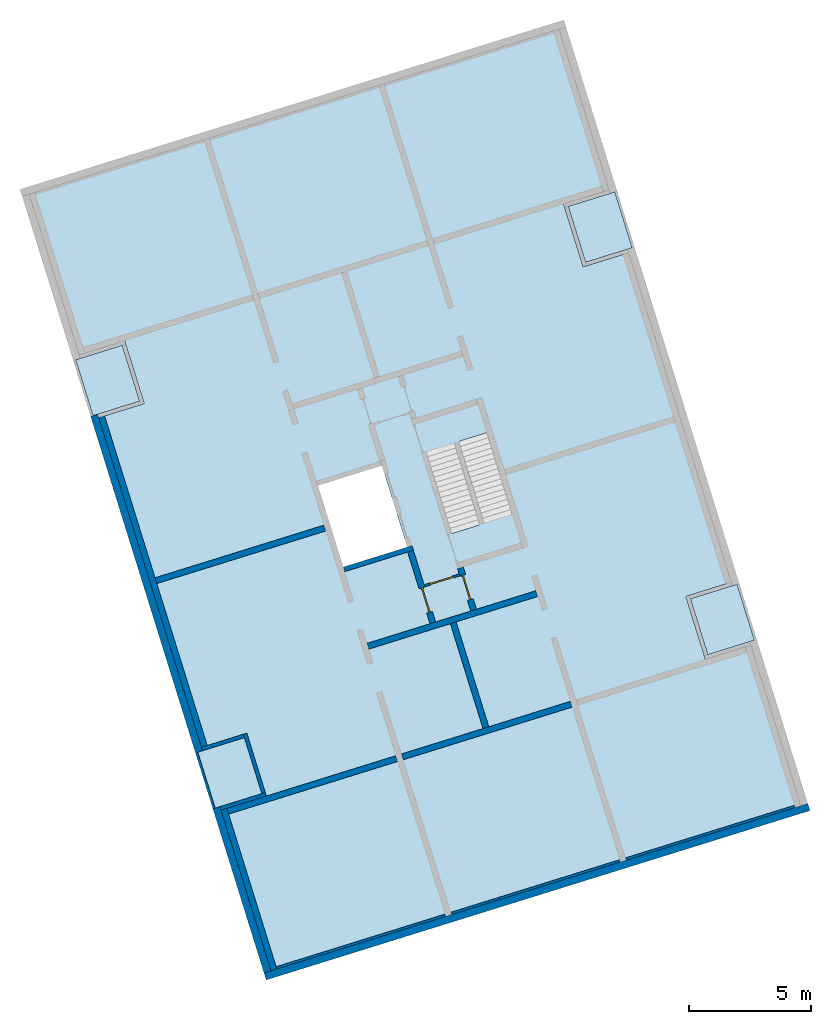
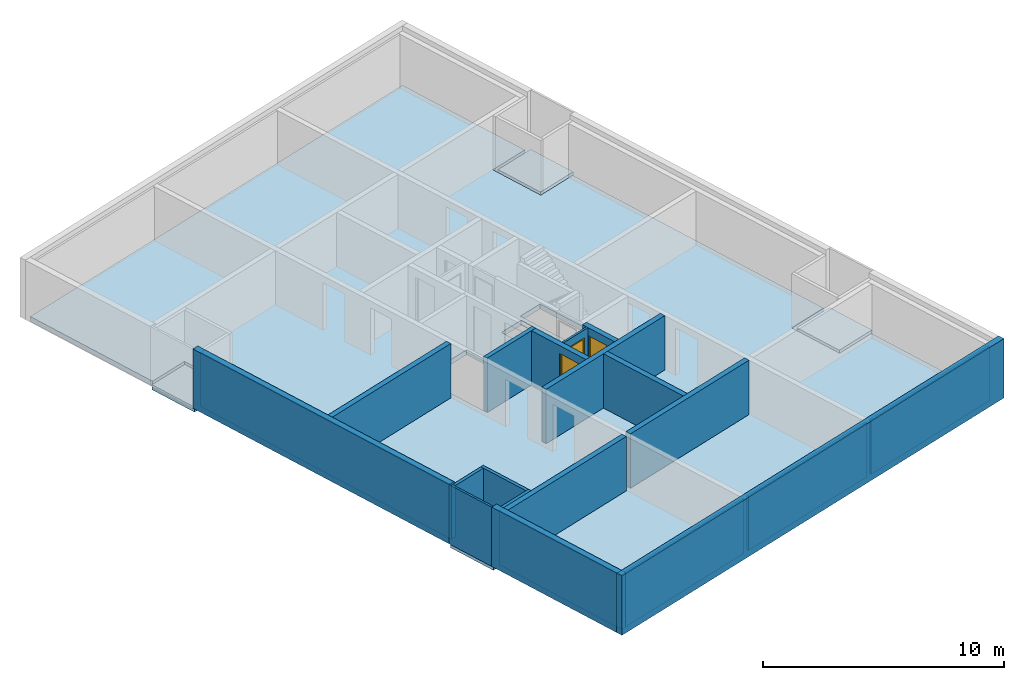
# One storey, part 1 of 4: 21 walls, 5 slabs, 3 doors, 5 openings.
"""IFC4 building model written with IfcOpenShell, lengths in metres."""

from ifc_helpers import new_model, entity, si_unit, converted_unit, direction, frame, origin, place, context, subcontext, project, spatial, indexed_curve, outline, extrude, polygons, source, transform, mapped, material, constituent, constituent_set, type_object, type_shapes, element, fill, save


model = new_model("IFC4")

# Units and contexts
model_context = context("Model", 3, precision=1e-05, world=origin(), true_north=direction((6.12323399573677e-17, 1.0)))
body_context = subcontext(model_context, "Body", "Model", "MODEL_VIEW")
ifc_project = project(units=[si_unit("LENGTHUNIT", "METRE"), si_unit("AREAUNIT", "SQUARE_METRE"), si_unit("VOLUMEUNIT", "CUBIC_METRE"), converted_unit("PLANEANGLEUNIT", "DEGREE", entity("IfcPlaneAngleMeasure", 0.0174532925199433), si_unit("PLANEANGLEUNIT", "RADIAN"), dimensions=[0, 0, 0, 0, 0, 0, 0])], contexts=[model_context])

# Site, building, storey
site_placement = place(None, frame((13.1347999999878, 11.9886000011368, 0.0), z_axis=(0.0, 0.0, 1.0), x_axis=(0.954770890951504, 0.297342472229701, 0.0)))
site = spatial("IfcSite", under=ifc_project, at=site_placement, Name="Schiehaven", CompositionType="ELEMENT")
building_placement = place(site_placement, origin())
building = spatial("IfcBuilding", under=site, at=building_placement, Name="VORM huis", CompositionType="ELEMENT")
storey_placement = place(building_placement, frame((0.0, 0.0, 3.9)))
storey = spatial("IfcBuildingStorey", under=building, at=storey_placement, Name="01 eerste verdieping", CompositionType="ELEMENT", Elevation=3.9)

# Slab, openings
ifc_material_1 = material(Name="beton_gewapend_ihw", Category="Miscellaneous")
slab_type_1 = type_object("IfcSlabType", Name="Floor:28_FL_skelet_vloer 250mm", PredefinedType="FLOOR", material=ifc_material_1)
slab_1_placement = place(storey_placement, origin())
slab_1 = element("IfcSlab", 1, at=slab_1_placement, inside=storey, type_object=slab_type_1, material=ifc_material_1, Name="Constructieve vloer", ObjectType="Vloer", PredefinedType="FLOOR", context=body_context, shape_type="SweptSolid", body=[
    extrude(outline(indexed_curve([(-16.6749999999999, -11.375), (-9.77499999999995, -11.375), (-9.77499999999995, -9.42500000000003), (-7.07499999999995, -9.42500000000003), (-7.07499999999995, -11.375), (7.07499999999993, -11.375), (7.07499999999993, -9.42500000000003), (9.77499999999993, -9.42500000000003), (9.77499999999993, -11.375), (16.675, -11.375), (16.675, 11.375), (9.77499999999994, 11.375), (9.77499999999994, 9.42500000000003), (7.07499999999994, 9.42500000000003), (7.07499999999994, 11.375), (-7.07499999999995, 11.375), (-7.07499999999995, 9.42500000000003), (-9.77499999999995, 9.42500000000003), (-9.77499999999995, 11.375), (-16.6749999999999, 11.375), (-16.6749999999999, -11.375)], self_intersect=False), holes=[indexed_curve([(-1.75, -3.62500000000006), (-1.75, -0.875000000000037), (1.75, -0.875000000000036), (1.75, -3.62500000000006), (-1.75, -3.62500000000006)], self_intersect=False), indexed_curve([(1.76000000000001, 2.22499999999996), (1.76000000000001, 1.02499999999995), (-1.53999999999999, 1.02499999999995), (-1.53999999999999, 2.22499999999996), (1.76000000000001, 2.22499999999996)], self_intersect=False), indexed_curve([(-1.75999999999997, 3.62499999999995), (1.54000000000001, 3.62499999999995), (1.54000000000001, 2.42499999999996), (-1.75999999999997, 2.42499999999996), (-1.75999999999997, 3.62499999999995)], self_intersect=False)]), frame((16.2500000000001, 17.05, -0.249999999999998), z_axis=(0.0, 0.0, 1.0), x_axis=(0.0, -1.0, 0.0)), (0.0, 0.0, 1.0), 0.25),
])
opening_1_placement = place(slab_1_placement, origin())
element("IfcOpeningElement", 2, at=opening_1_placement, cuts=slab_1, Name="Constructieve vloer", PredefinedType="OPENING", context=body_context, shape_type="SweptSolid", body=[
    extrude(outline(indexed_curve([(-1.74999999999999, -1.37500000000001), (1.75, -1.37500000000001), (1.75, 1.37500000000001), (-1.75, 1.37500000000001), (-1.74999999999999, -1.37500000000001)], self_intersect=False)), frame((14.0, 17.05, -0.25), z_axis=(0.0, 0.0, 1.0), x_axis=(0.0, -1.0, 0.0)), (0.0, 0.0, 1.0), 0.25),
])
opening_2_placement = place(slab_1_placement, origin())
element("IfcOpeningElement", 3, at=opening_2_placement, cuts=slab_1, Name="Constructieve vloer", PredefinedType="OPENING", context=body_context, shape_type="SweptSolid", body=[
    extrude(outline(indexed_curve([(-1.65, -0.600000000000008), (1.65, -0.600000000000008), (1.65, 0.600000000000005), (-1.65, 0.600000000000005), (-1.65, -0.600000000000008)], self_intersect=False)), frame((17.8750000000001, 16.94, -0.25), z_axis=(0.0, 0.0, 1.0), x_axis=(0.0, 1.0, 0.0)), (0.0, 0.0, 1.0), 0.25),
])

# Slabs
slab_type_2 = type_object("IfcSlabType", Name="Floor:28_FL_skelet_dakterrasvloer 250mm", PredefinedType="ROOF", material=ifc_material_1)
slab_2_placement = place(storey_placement, origin())
element("IfcSlab", 4, at=slab_2_placement, inside=storey, type_object=slab_type_2, material=ifc_material_1, Name="Begaanbare dakvloer", ObjectType="Vloer", PredefinedType="ROOF", context=body_context, shape_type="SweptSolid", body=[
    extrude(outline(indexed_curve([(-1.2, -1.0), (1.2, -1.0), (1.2, 1.0), (-1.2, 1.0), (-1.2, -1.0)], self_intersect=False)), frame((5.67500000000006, 8.62500000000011, 0.0), z_axis=(0.0, 0.0, -1.0), x_axis=(0.0, 1.0, 0.0)), (0.0, 0.0, 1.0), 0.25),
])
slab_3_placement = place(storey_placement, origin())
element("IfcSlab", 5, at=slab_3_placement, inside=storey, type_object=slab_type_2, material=ifc_material_1, Name="Begaanbare dakvloer", ObjectType="Vloer", PredefinedType="ROOF", context=body_context, shape_type="SweptSolid", body=[
    extrude(outline(indexed_curve([(-1.2, -1.0), (1.2, -1.0), (1.2, 1.0), (-1.2, 1.0), (-1.2, -1.0)], self_intersect=False)), frame((5.67500000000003, 25.475, 0.0), z_axis=(0.0, 0.0, -1.0), x_axis=(0.0, 1.0, 0.0)), (0.0, 0.0, 1.0), 0.25),
])
slab_4_placement = place(storey_placement, origin())
element("IfcSlab", 6, at=slab_4_placement, inside=storey, type_object=slab_type_2, material=ifc_material_1, Name="Begaanbare dakvloer", ObjectType="Vloer", PredefinedType="ROOF", context=body_context, shape_type="SweptSolid", body=[
    extrude(outline(indexed_curve([(-1.2, -1.0), (1.19999999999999, -1.0), (1.2, 1.0), (-1.2, 1.0), (-1.2, -1.0)], self_intersect=False)), frame((26.8250000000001, 25.4749999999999, 0.0), z_axis=(0.0, 0.0, -1.0), x_axis=(0.0, 1.0, 0.0)), (0.0, 0.0, 1.0), 0.25),
])
slab_5_placement = place(storey_placement, origin())
element("IfcSlab", 7, at=slab_5_placement, inside=storey, type_object=slab_type_2, material=ifc_material_1, Name="Begaanbare dakvloer", ObjectType="Vloer", PredefinedType="ROOF", context=body_context, shape_type="SweptSolid", body=[
    extrude(outline(indexed_curve([(-1.2, -1.00000000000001), (1.2, -1.00000000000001), (1.2, 0.999999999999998), (-1.2, 1.0), (-1.2, -1.00000000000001)], self_intersect=False)), frame((26.8250000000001, 8.6250000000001, 0.0), z_axis=(0.0, 0.0, -1.0), x_axis=(0.0, 1.0, 0.0)), (0.0, 0.0, 1.0), 0.25),
])

# Walls
wall_type_1 = type_object("IfcWallType", Name="Basic Wall:28_WA_skelet_wand 250mm_gen", PredefinedType="STANDARD")
wall_1_placement = place(storey_placement, frame((5.0, 0.374999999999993, 0.0), z_axis=(0.0, 0.0, 1.0), x_axis=(0.0, 1.0, 0.0)))
element("IfcWall", 8, at=wall_1_placement, inside=storey, type_object=wall_type_1, material=ifc_material_1, Name="Constructieve wand", ObjectType="Wand", PredefinedType="NOTDEFINED", context=body_context, shape_type="SweptSolid", body=[
    extrude(outline(indexed_curve([(6.90000000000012, 0.125), (4.15883752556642e-16, 0.125), (-4.15883752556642e-16, -0.125), (6.90000000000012, -0.125), (6.90000000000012, 0.125)], self_intersect=False)), origin(), (0.0, 0.0, 1.0), 2.75),
])
wall_2_placement = place(storey_placement, frame((19.875, 11.9, 0.0), z_axis=(0.0, 0.0, 1.0), x_axis=(-1.0, 0.0, 0.0)))
element("IfcWall", 9, at=wall_2_placement, inside=storey, type_object=wall_type_1, material=ifc_material_1, Name="Constructieve wand", ObjectType="Wand", PredefinedType="NOTDEFINED", context=body_context, shape_type="SweptSolid", body=[
    extrude(outline(indexed_curve([(7.24999999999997, 0.125), (-8.26393618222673e-17, 0.125), (8.26393618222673e-17, -0.125), (7.24999999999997, -0.124999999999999), (7.24999999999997, 0.125)], self_intersect=False)), origin(), (0.0, 0.0, 1.0), 2.75),
])
wall_3_placement = place(storey_placement, frame((5.0, 9.97500000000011, 0.0), z_axis=(0.0, 0.0, 1.0), x_axis=(0.0, 1.0, 0.0)))
element("IfcWall", 10, at=wall_3_placement, inside=storey, type_object=wall_type_1, material=ifc_material_1, Name="Constructieve wand", ObjectType="Wand", PredefinedType="NOTDEFINED", context=body_context, shape_type="SweptSolid", body=[
    extrude(outline(indexed_curve([(14.1499999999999, 0.125), (-6.50485554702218e-16, 0.125), (-1.51524870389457e-15, -0.125), (14.1499999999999, -0.125), (14.1499999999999, 0.125)], self_intersect=False)), origin(), (0.0, 0.0, 1.0), 2.75),
])
ifc_material_2 = material(Name="ntb_ntb_ntb", Category="Miscellaneous")
wall_type_2 = type_object("IfcWallType", Name="Basic Wall:21_WA_gevel_binnenspouwwand 100mm_gen", PredefinedType="STANDARD")
wall_4_placement = place(storey_placement, frame((5.12500000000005, 0.424999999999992, 0.0)))
element("IfcWall", 11, at=wall_4_placement, inside=storey, type_object=wall_type_2, material=ifc_material_2, Name="Binnenspouwblad", ObjectType="Wand", PredefinedType="NOTDEFINED", context=body_context, shape_type="SweptSolid", body=[
    extrude(outline(indexed_curve([(7.24999999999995, 0.05), (-1.84844170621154e-16, 0.05), (1.84844170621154e-16, -0.05), (7.24999999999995, -0.05), (7.24999999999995, 0.05)], self_intersect=False)), origin(), (0.0, 0.0, 1.0), 2.75),
])
wall_5_placement = place(storey_placement, frame((19.875, 0.424999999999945, 0.0), z_axis=(0.0, 0.0, 1.0), x_axis=(-1.0, 0.0, 0.0)))
element("IfcWall", 12, at=wall_5_placement, inside=storey, type_object=wall_type_2, material=ifc_material_2, Name="Binnenspouwblad", ObjectType="Wand", PredefinedType="NOTDEFINED", context=body_context, shape_type="SweptSolid", body=[
    extrude(outline(indexed_curve([(7.24999999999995, 0.05), (-3.39037421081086e-16, 0.05), (3.39037421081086e-16, -0.05), (7.24999999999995, -0.05), (7.24999999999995, 0.05)], self_intersect=False)), origin(), (0.0, 0.0, 1.0), 2.75),
])
wall_6_placement = place(storey_placement, frame((20.1250000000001, 0.424999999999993, 0.0)))
element("IfcWall", 13, at=wall_6_placement, inside=storey, type_object=wall_type_2, material=ifc_material_2, Name="Binnenspouwblad", ObjectType="Wand", PredefinedType="NOTDEFINED", context=body_context, shape_type="SweptSolid", body=[
    extrude(outline(indexed_curve([(7.24999999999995, 0.05), (-1.84844170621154e-16, 0.05), (1.84844170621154e-16, -0.05), (7.24999999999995, -0.05), (7.24999999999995, 0.05)], self_intersect=False)), origin(), (0.0, 0.0, 1.0), 2.75),
])
wall_type_3 = type_object("IfcWallType", Name="Basic Wall: 300mm_gen", PredefinedType="STANDARD")
wall_7_placement = place(storey_placement, frame((4.72500000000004, 0.375000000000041, 0.0), z_axis=(0.0, 0.0, 1.0), x_axis=(0.0, 1.0, 0.0)))
element("IfcWall", 14, at=wall_7_placement, inside=storey, type_object=wall_type_3, material=ifc_material_2, Name="Gevelwand", ObjectType="Wand", PredefinedType="NOTDEFINED", context=body_context, shape_type="SweptSolid", body=[
    extrude(outline(indexed_curve([(7.05000000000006, 0.15), (2.25597318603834e-16, 0.15), (-2.25597318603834e-16, -0.15), (7.05000000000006, -0.15), (7.05000000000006, 0.15)], self_intersect=False)), origin(), (0.0, 0.0, 1.0), 3.0),
])
wall_8_placement = place(storey_placement, frame((27.9250000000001, 0.224999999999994, 0.0), z_axis=(0.0, 0.0, 1.0), x_axis=(-1.0, 0.0, 0.0)))
element("IfcWall", 15, at=wall_8_placement, inside=storey, type_object=wall_type_3, material=ifc_material_2, Name="Gevelwand", ObjectType="Wand", PredefinedType="NOTDEFINED", context=body_context, shape_type="SweptSolid", body=[
    extrude(outline(indexed_curve([(23.3500000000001, 0.15), (-3.08086889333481e-16, 0.15), (3.08086889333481e-16, -0.15), (23.3500000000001, -0.15), (23.3500000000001, 0.15)], self_intersect=False)), origin(), (0.0, 0.0, 1.0), 3.0),
])
wall_9_placement = place(storey_placement, frame((4.72500000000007, 9.82500000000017, 0.0), z_axis=(0.0, 0.0, 1.0), x_axis=(0.0, 1.0, 0.0)))
element("IfcWall", 16, at=wall_9_placement, inside=storey, type_object=wall_type_3, material=ifc_material_2, Name="Gevelwand", ObjectType="Wand", PredefinedType="NOTDEFINED", context=body_context, shape_type="SweptSolid", body=[
    extrude(outline(indexed_curve([(14.4499999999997, 0.15), (-2.92261716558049e-16, 0.15), (2.92261716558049e-16, -0.15), (14.4499999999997, -0.15), (14.4499999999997, 0.15)], self_intersect=False)), origin(), (0.0, 0.0, 1.0), 3.0),
])
ifc_material_3 = material(Name="beton_gewapend_prefab-element", Category="Miscellaneous")
wall_type_4 = type_object("IfcWallType", Name="Basic Wall:28_WA_skelet_wand 200mm_gen", PredefinedType="STANDARD")
wall_10_placement = place(storey_placement, frame((12.6250000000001, 15.2, 0.0)))
element("IfcWall", 17, at=wall_10_placement, inside=storey, type_object=wall_type_4, material=ifc_material_3, Name="Constructieve wand", ObjectType="Wand", PredefinedType="NOTDEFINED", context=body_context, shape_type="SweptSolid", body=[
    extrude(outline(indexed_curve([(2.95, 0.100000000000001), (-3.51397851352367e-16, 0.100000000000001), (3.51397851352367e-16, -0.100000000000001), (2.95, -0.100000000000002), (2.95, 0.100000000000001)], self_intersect=False)), origin(), (0.0, 0.0, 1.0), 2.75),
])
wall_type_5 = type_object("IfcWallType", Name="Basic Wall:22_WA_afbouw_binnenwand 250mm_gen", PredefinedType="STANDARD")
wall_11_placement = place(storey_placement, frame((12.3750000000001, 17.05, 0.0), z_axis=(0.0, 0.0, 1.0), x_axis=(-1.0, 0.0, 0.0)))
element("IfcWall", 18, at=wall_11_placement, inside=storey, type_object=wall_type_5, material=ifc_material_2, Name="Binnenwand", ObjectType="Wand", PredefinedType="NOTDEFINED", context=body_context, shape_type="SweptSolid", body=[
    extrude(outline(indexed_curve([(7.24999999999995, 0.125), (-4.96496521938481e-16, 0.125), (4.96496521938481e-16, -0.125), (7.24999999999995, -0.124999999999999), (7.24999999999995, 0.125)], self_intersect=False)), origin(), (0.0, 0.0, 1.0), 2.75),
])
wall_12_placement = place(storey_placement, frame((16.2500000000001, 11.7750000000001, 0.0), z_axis=(0.0, 0.0, 1.0), x_axis=(0.0, -1.0, 0.0)))
element("IfcWall", 19, at=wall_12_placement, inside=storey, type_object=wall_type_5, material=ifc_material_2, Name="Binnenwand", ObjectType="Wand", PredefinedType="NOTDEFINED", context=body_context, shape_type="SweptSolid", body=[
    extrude(outline(indexed_curve([(4.49999999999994, 0.124999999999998), (-4.42822187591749e-16, 0.125), (4.42822187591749e-16, -0.125), (4.49999999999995, -0.125000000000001), (4.49999999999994, 0.124999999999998)], self_intersect=False)), origin(), (0.0, 0.0, 1.0), 2.75),
])

# Wall, opening, door
wall_13_placement = place(storey_placement, frame((17.2000000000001, 13.84, 0.0), z_axis=(0.0, 0.0, 1.0), x_axis=(0.0, -1.0, 0.0)))
wall_13 = element("IfcWall", 20, at=wall_13_placement, inside=storey, type_object=wall_type_5, material=ifc_material_2, Name="Binnenwand", ObjectType="Wand", PredefinedType="NOTDEFINED", context=body_context, shape_type="Tessellation", body=[
    polygons([(1.36500000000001, -0.124999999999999, 2.34999999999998), (1.36500000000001, -0.124999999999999, -5.41433564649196e-16), (1.81499999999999, -0.125000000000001, -5.41433564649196e-16), (1.81499999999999, -0.125000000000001, 2.75), (0.315000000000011, -0.124999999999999, 2.75), (0.215000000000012, -0.124999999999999, 2.75), (-2.16573425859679e-15, -0.125, 2.75), (-2.16573425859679e-15, -0.125, -5.41433564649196e-16), (0.215000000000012, -0.124999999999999, 0.0), (0.315000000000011, -0.124999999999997, -5.41433564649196e-16), (0.315000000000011, -0.124999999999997, 2.34999999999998), (1.81499999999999, 0.124999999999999, -5.41433564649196e-16), (1.36500000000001, 0.125, -5.41433564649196e-16), (1.36500000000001, 0.125, 2.34999999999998), (0.315000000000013, 0.125, 2.34999999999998), (0.315000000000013, 0.125, -5.41433564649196e-16), (0.0, 0.124999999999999, -5.41433564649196e-16), (0.0, 0.124999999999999, 2.75), (1.81499999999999, 0.124999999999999, 2.75), (-2.16573425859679e-15, -0.0250000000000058, 0.0), (-2.16573425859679e-15, -0.0250000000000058, 2.75)], [[[1, 2, 3, 4, 5, 6, 7, 8, 9, 10, 11]], [[12, 13, 14, 15, 16, 17, 18, 19]], [[10, 9, 8, 20, 17, 16]], [[4, 3, 12, 19]], [[7, 6, 5, 4, 19, 18, 21]], [[8, 7, 21, 18, 17, 20]], [[16, 15, 11, 10]], [[14, 13, 2, 1]], [[15, 14, 1, 11]], [[3, 2, 13, 12]]], closed=True),
])
opening_3_placement = place(wall_13_placement, frame((1.36500000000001, 0.125000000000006, 0.0)))
opening_3 = element("IfcOpeningElement", 21, at=opening_3_placement, cuts=wall_13, Name="Woningtoegangsdeur", PredefinedType="OPENING", context=body_context, shape_type="SweptSolid", body=[
    extrude(outline(indexed_curve([(2.34999999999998, 1.05), (0.0, 1.05), (0.0, 1.35358391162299e-15), (2.34999999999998, 1.35358391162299e-15), (2.34999999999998, 1.05)], self_intersect=False)), frame((0.0, 0.0, 0.0), z_axis=(0.0, -1.0, 0.0), x_axis=(0.0, 0.0, 1.0)), (0.0, 0.0, 1.0), 0.25),
])
ifc_material_4 = material(Name="PD_a_binnenwandopeningen", Category="Miscellaneous")
ifc_constituent_1 = constituent(ifc_material_4, Name="PD_a_binnenwandopeningen", Category="Miscellaneous")
ifc_material_5 = material(Name="metaal_aluminium_ntb", Category="Miscellaneous")
ifc_constituent_2 = constituent(ifc_material_5, Name="metaal_aluminium_ntb", Category="Miscellaneous")
ifc_constituent_set_1 = constituent_set(constituents=[ifc_constituent_1, ifc_constituent_2])
ifc_constituent_3 = constituent(ifc_material_4, Name="PD_a_binnenwandopeningen", Category="Miscellaneous")
ifc_constituent_4 = constituent(ifc_material_5, Name="Panel", Category="Miscellaneous")
ifc_constituent_set_2 = constituent_set(constituents=[ifc_constituent_3, ifc_constituent_4])
door_type_1 = type_object("IfcDoorType", Name="32_DO_binnendeur enkel:woningtoegangsdeur", OperationType="REVOLVING", PredefinedType="DOOR", material=ifc_constituent_set_2)
shared_shape_1 = source(origin(), body_context, "Body", "SweptSolid", [
    extrude(outline(indexed_curve([(-1.16249999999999, -0.525000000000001), (1.18749999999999, -0.525), (1.18749999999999, 0.525000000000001), (-1.16249999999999, 0.525000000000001), (-1.16249999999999, 0.475), (1.13749999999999, 0.475), (1.13749999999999, -0.475), (-1.16249999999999, -0.475), (-1.16249999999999, -0.525000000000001)], self_intersect=False)), frame((0.525000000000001, 0.0749999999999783, 1.16249999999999), z_axis=(0.0, 1.0, 0.0), x_axis=(0.0, 0.0, 1.0)), (0.0, 0.0, 1.0), 0.1),
    extrude(outline(indexed_curve([(-0.025, -0.475), (0.025, -0.475), (0.025, 0.475), (-0.025, 0.475), (-0.025, -0.475)], self_intersect=False)), frame((0.525000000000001, 0.12499999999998, 0.0), z_axis=(0.0, 0.0, 1.0), x_axis=(0.0, 1.0, 0.0)), (0.0, 0.0, 1.0), 2.29999999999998),
])
type_shapes(door_type_1, [shared_shape_1])
door_1_placement = place(opening_3_placement, frame((0.0, 0.0, 0.0), z_axis=(0.0, 0.0, 1.0), x_axis=(-1.0, 0.0, 0.0)))
door_1 = element("IfcDoor", 22, at=door_1_placement, inside=storey, type_object=door_type_1, material=ifc_constituent_set_1, Name="Woningtoegangsdeur", ObjectType="Deur", OperationType="REVOLVING", OverallHeight=2.34999999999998, OverallWidth=1.05, PredefinedType="DOOR", context=body_context, shape_type="MappedRepresentation", body=[
    mapped(shared_shape_1, transform((0.0, 0.0, 0.0), scale=1.0)),
])
fill(opening_3, door_1)

wall_14_placement = place(storey_placement, frame((15.45, 15.1, 0.0), z_axis=(0.0, 0.0, 1.0), x_axis=(0.0, -1.0, 0.0)))
wall_14 = element("IfcWall", 23, at=wall_14_placement, inside=storey, type_object=wall_type_5, material=ifc_material_2, Name="Binnenwand", ObjectType="Wand", PredefinedType="NOTDEFINED", context=body_context, shape_type="Tessellation", body=[
    polygons([(2.625, -0.125000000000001, 2.34999999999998), (2.625, -0.125000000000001, -5.41433564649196e-16), (3.07499999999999, -0.124999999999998, -5.41433564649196e-16), (3.07499999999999, -0.124999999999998, 2.75), (0.0, -0.124999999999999, 2.75), (0.0, -0.124999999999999, -5.41433564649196e-16), (1.575, -0.124999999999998, -5.41433564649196e-16), (1.575, -0.124999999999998, 2.34999999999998), (3.07499999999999, 0.125000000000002, -5.41433564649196e-16), (2.625, 0.125000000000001, -5.41433564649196e-16), (2.625, 0.125000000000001, 2.34999999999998), (1.575, 0.125000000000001, 2.34999999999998), (1.575, 0.125000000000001, -5.41433564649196e-16), (1.475, 0.125000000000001, 0.0), (0.0, 0.125000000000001, -5.41433564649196e-16), (0.0, 0.125000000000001, 2.75), (1.475, 0.125000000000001, 2.75), (1.575, 0.125000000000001, 2.75), (3.07499999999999, 0.125000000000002, 2.75)], [[[1, 2, 3, 4, 5, 6, 7, 8]], [[9, 10, 11, 12, 13, 14, 15, 16, 17, 18, 19]], [[7, 6, 15, 14, 13]], [[4, 3, 9, 19]], [[5, 4, 19, 18, 17, 16]], [[6, 5, 16, 15]], [[13, 12, 8, 7]], [[11, 10, 2, 1]], [[12, 11, 1, 8]], [[3, 2, 10, 9]]], closed=True),
])
opening_4_placement = place(wall_14_placement, frame((1.575, -0.124999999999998, 0.0)))
opening_4 = element("IfcOpeningElement", 24, at=opening_4_placement, cuts=wall_14, Name="Woningtoegangsdeur", PredefinedType="OPENING", context=body_context, shape_type="SweptSolid", body=[
    extrude(outline(indexed_curve([(2.34999999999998, 1.35358391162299e-15), (2.34999999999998, 1.05), (0.0, 1.05), (0.0, 1.35358391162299e-15), (2.34999999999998, 1.35358391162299e-15)], self_intersect=False)), frame((0.0, 0.0, 0.0), z_axis=(0.0, 1.0, 0.0), x_axis=(0.0, 0.0, 1.0)), (0.0, 0.0, 1.0), 0.25),
])
ifc_constituent_5 = constituent(ifc_material_4, Name="PD_a_binnenwandopeningen", Category="Miscellaneous")
ifc_constituent_6 = constituent(ifc_material_5, Name="metaal_aluminium_ntb", Category="Miscellaneous")
ifc_constituent_set_3 = constituent_set(constituents=[ifc_constituent_5, ifc_constituent_6])
ifc_constituent_7 = constituent(ifc_material_4, Name="PD_a_binnenwandopeningen", Category="Miscellaneous")
ifc_constituent_8 = constituent(ifc_material_5, Name="Panel", Category="Miscellaneous")
ifc_constituent_set_4 = constituent_set(constituents=[ifc_constituent_7, ifc_constituent_8])
door_type_2 = type_object("IfcDoorType", Name="32_DO_binnendeur enkel:woningtoegangsdeur", OperationType="REVOLVING", PredefinedType="DOOR", material=ifc_constituent_set_4)
shared_shape_2 = source(origin(), body_context, "Body", "SweptSolid", [
    extrude(outline(indexed_curve([(0.475, -1.16249999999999), (0.525000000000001, -1.16249999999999), (0.525000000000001, 1.18749999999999), (-0.525000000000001, 1.18749999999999), (-0.525000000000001, -1.16249999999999), (-0.475, -1.16249999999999), (-0.475, 1.13749999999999), (0.475, 1.13749999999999), (0.475, -1.16249999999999)], self_intersect=False)), frame((0.525000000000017, 0.174999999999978, 1.16249999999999), z_axis=(0.0, -1.0, 0.0), x_axis=(1.0, 0.0, 0.0)), (0.0, 0.0, 1.0), 0.1),
    extrude(outline(indexed_curve([(-0.475, -0.025), (0.475, -0.025), (0.475, 0.025), (-0.475, 0.025), (-0.475, -0.025)], self_intersect=False)), frame((0.525000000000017, 0.12499999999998, 0.0)), (0.0, 0.0, 1.0), 2.29999999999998),
])
type_shapes(door_type_2, [shared_shape_2])
door_2_placement = place(opening_4_placement, origin())
door_2 = element("IfcDoor", 25, at=door_2_placement, inside=storey, type_object=door_type_2, material=ifc_constituent_set_3, Name="Woningtoegangsdeur", ObjectType="Deur", OperationType="REVOLVING", OverallHeight=2.34999999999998, OverallWidth=1.05, PredefinedType="DOOR", context=body_context, shape_type="MappedRepresentation", body=[
    mapped(shared_shape_2, transform((0.0, 0.0, 0.0), scale=1.0)),
])
fill(opening_4, door_2)

# Walls
wall_15_placement = place(storey_placement, frame((12.625, 7.15000000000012, 0.0)))
element("IfcWall", 26, at=wall_15_placement, inside=storey, type_object=wall_type_5, material=ifc_material_2, Name="Binnenwand", ObjectType="Wand", PredefinedType="NOTDEFINED", context=body_context, shape_type="SweptSolid", body=[
    extrude(outline(indexed_curve([(7.24999999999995, 0.125), (-3.36084576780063e-16, 0.125), (3.36084576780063e-16, -0.125), (7.24999999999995, -0.125), (7.24999999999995, 0.125)], self_intersect=False)), origin(), (0.0, 0.0, 1.0), 2.75),
])
wall_16_placement = place(storey_placement, frame((5.12500000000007, 7.15000000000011, 0.0)))
element("IfcWall", 27, at=wall_16_placement, inside=storey, type_object=wall_type_5, material=ifc_material_2, Name="Binnenwand", ObjectType="Wand", PredefinedType="NOTDEFINED", context=body_context, shape_type="SweptSolid", body=[
    extrude(outline(indexed_curve([(7.24999999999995, 0.124999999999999), (-1.92055213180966e-16, 0.125), (1.92055213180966e-16, -0.125), (7.24999999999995, -0.125000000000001), (7.24999999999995, 0.124999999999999)], self_intersect=False)), origin(), (0.0, 0.0, 1.0), 2.75),
])

# Wall, opening, door
wall_type_6 = type_object("IfcWallType", Name="Basic Wall:22_WA_afbouw_binnenwand 100mm_gen", PredefinedType="STANDARD")
wall_17_placement = place(storey_placement, frame((17.0750000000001, 13.575, 0.0), z_axis=(0.0, 0.0, 1.0), x_axis=(-1.0, 0.0, 0.0)))
wall_17 = element("IfcWall", 28, at=wall_17_placement, inside=storey, type_object=wall_type_6, material=ifc_material_2, Name="Binnenwand", ObjectType="Wand", PredefinedType="NOTDEFINED", context=body_context, shape_type="Tessellation", body=[
    polygons([(1.50000000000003, -0.0499999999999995, 2.75), (-1.35141276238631e-15, -0.0499999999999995, 2.75), (-1.35141276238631e-15, -0.0499999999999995, -5.41433564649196e-16), (0.224999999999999, -0.0499999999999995, -5.41433564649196e-16), (0.224999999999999, -0.0499999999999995, 2.34999999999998), (1.275, -0.0499999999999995, 2.34999999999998), (1.275, -0.0499999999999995, -5.41433564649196e-16), (1.50000000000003, -0.0499999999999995, -5.41433564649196e-16), (-2.16804959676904e-15, 0.0500000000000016, 2.75), (1.50000000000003, 0.0499999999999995, 2.75), (1.50000000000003, 0.0499999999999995, 2.34999999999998), (1.50000000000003, 0.0499999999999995, -5.41433564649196e-16), (1.275, 0.0499999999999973, -5.41433564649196e-16), (1.275, 0.0499999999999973, 2.34999999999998), (0.224999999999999, 0.0500000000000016, 2.34999999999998), (0.224999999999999, 0.0500000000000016, -5.41433564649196e-16), (-2.16804959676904e-15, 0.0500000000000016, -5.41433564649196e-16), (-2.31533817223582e-18, 0.0499999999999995, 2.34999999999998)], [[[1, 2, 3, 4, 5, 6, 7, 8]], [[9, 10, 11, 12, 13, 14, 15, 16, 17, 18]], [[3, 17, 16, 4]], [[2, 1, 10, 9]], [[15, 5, 4, 16]], [[5, 15, 14, 6]], [[6, 14, 13, 7]], [[3, 2, 9, 18, 17]], [[1, 8, 12, 11, 10]], [[12, 8, 7, 13]]], closed=True),
])
opening_5_placement = place(wall_17_placement, frame((1.275, 0.0499999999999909, 0.0)))
opening_5 = element("IfcOpeningElement", 29, at=opening_5_placement, cuts=wall_17, Name="Vluchtdeur", PredefinedType="OPENING", context=body_context, shape_type="SweptSolid", body=[
    extrude(outline(indexed_curve([(2.34999999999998, 1.35358391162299e-15), (2.34999999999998, 1.05), (0.0, 1.05), (0.0, 1.35358391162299e-15), (2.34999999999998, 1.35358391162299e-15)], self_intersect=False)), frame((0.0, 0.0, 0.0), z_axis=(0.0, -1.0, 0.0), x_axis=(0.0, 0.0, 1.0)), (0.0, 0.0, 1.0), 0.1),
])
ifc_constituent_9 = constituent(ifc_material_4, Name="PD_a_binnenwandopeningen", Category="Miscellaneous")
ifc_constituent_10 = constituent(ifc_material_5, Name="metaal_aluminium_ntb", Category="Miscellaneous")
ifc_constituent_set_5 = constituent_set(constituents=[ifc_constituent_9, ifc_constituent_10])
ifc_constituent_11 = constituent(ifc_material_4, Name="PD_a_binnenwandopeningen", Category="Miscellaneous")
ifc_constituent_12 = constituent(ifc_material_5, Name="Panel", Category="Miscellaneous")
ifc_constituent_set_6 = constituent_set(constituents=[ifc_constituent_11, ifc_constituent_12])
door_type_3 = type_object("IfcDoorType", Name="32_DO_binnendeur enkel:binnendeur zelfsluitend 30min", OperationType="NOTDEFINED", PredefinedType="DOOR", material=ifc_constituent_set_6)
shared_shape_3 = source(origin(), body_context, "Body", "SweptSolid", [
    extrude(outline(indexed_curve([(0.475, -1.16249999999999), (0.525, -1.16249999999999), (0.525, 1.18749999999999), (-0.525, 1.18749999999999), (-0.525, -1.16249999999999), (-0.475, -1.16249999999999), (-0.475, 1.13749999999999), (0.475, 1.13749999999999), (0.475, -1.16249999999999)], self_intersect=False)), frame((0.525000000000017, 0.100000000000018, 1.16249999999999), z_axis=(0.0, -1.0, 0.0), x_axis=(1.0, 0.0, 0.0)), (0.0, 0.0, 1.0), 0.1),
    extrude(outline(indexed_curve([(-0.475, -0.025), (0.475, -0.025), (0.475, 0.025), (-0.475, 0.025), (-0.475, -0.025)], self_intersect=False)), frame((0.525000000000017, 0.0499999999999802, 0.0)), (0.0, 0.0, 1.0), 2.29999999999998),
])
type_shapes(door_type_3, [shared_shape_3])
door_3_placement = place(opening_5_placement, frame((0.0, 0.0, 0.0), z_axis=(0.0, 0.0, 1.0), x_axis=(-1.0, 0.0, 0.0)))
door_3 = element("IfcDoor", 30, at=door_3_placement, inside=storey, type_object=door_type_3, material=ifc_constituent_set_5, Name="Vluchtdeur", ObjectType="Deur", OperationType="NOTDEFINED", OverallHeight=2.34999999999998, OverallWidth=1.05, PredefinedType="DOOR", context=body_context, shape_type="MappedRepresentation", body=[
    mapped(shared_shape_3, transform((0.0, 0.0, 0.0), scale=1.0)),
])
fill(opening_5, door_3)

# Walls
wall_type_7 = type_object("IfcWallType", Name="Basic Wall: 150mm_gen", PredefinedType="STANDARD")
wall_18_placement = place(storey_placement, frame((4.87500000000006, 7.35000000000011, 0.0)))
element("IfcWall", 31, at=wall_18_placement, inside=storey, type_object=wall_type_7, material=ifc_material_2, Name="Gevelwand", ObjectType="Wand", PredefinedType="NOTDEFINED", context=body_context, shape_type="SweptSolid", body=[
    extrude(outline(indexed_curve([(1.95000000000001, 0.0750000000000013), (-2.49060845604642e-16, 0.0750000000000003), (2.49060845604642e-16, -0.0750000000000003), (1.95000000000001, -0.0749999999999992), (1.95000000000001, 0.0750000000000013)], self_intersect=False)), origin(), (0.0, 0.0, 1.0), 2.75),
])
wall_19_placement = place(storey_placement, frame((6.75000000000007, 7.42500000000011, 0.0), z_axis=(0.0, 0.0, 1.0), x_axis=(0.0, 1.0, 0.0)))
element("IfcWall", 32, at=wall_19_placement, inside=storey, type_object=wall_type_7, material=ifc_material_2, Name="Gevelwand", ObjectType="Wand", PredefinedType="NOTDEFINED", context=body_context, shape_type="SweptSolid", body=[
    extrude(outline(indexed_curve([(2.55, 0.0750000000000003), (0.0, 0.0750000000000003), (0.0, -0.0750000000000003), (2.55, -0.0750000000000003), (2.55, 0.0750000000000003)], self_intersect=False)), origin(), (0.0, 0.0, 1.0), 2.75),
])
wall_20_placement = place(storey_placement, frame((6.67500000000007, 9.90000000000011, 0.0), z_axis=(0.0, 0.0, 1.0), x_axis=(-1.0, 0.0, 0.0)))
element("IfcWall", 33, at=wall_20_placement, inside=storey, type_object=wall_type_7, material=ifc_material_2, Name="Gevelwand", ObjectType="Wand", PredefinedType="NOTDEFINED", context=body_context, shape_type="SweptSolid", body=[
    extrude(outline(indexed_curve([(1.8, 0.0750000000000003), (0.0, 0.0750000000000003), (0.0, -0.0750000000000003), (1.8, -0.0750000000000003), (1.8, 0.0750000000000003)], self_intersect=False)), origin(), (0.0, 0.0, 1.0), 2.75),
])
wall_type_8 = type_object("IfcWallType", Name="Basic Wall: 100mm_gen", PredefinedType="STANDARD")
wall_21_placement = place(storey_placement, frame((4.62500000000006, 7.42500000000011, 0.0), z_axis=(0.0, 0.0, 1.0), x_axis=(0.0, 1.0, 0.0)))
element("IfcWall", 34, at=wall_21_placement, inside=storey, type_object=wall_type_8, material=ifc_material_2, Name="Gevelwand", ObjectType="Wand", PredefinedType="NOTDEFINED", context=body_context, shape_type="SweptSolid", body=[
    extrude(outline(indexed_curve([(2.4, 0.0499999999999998), (-7.39698352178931e-17, 0.05), (7.39698352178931e-17, -0.05), (2.4, -0.0500000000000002), (2.4, 0.0499999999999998)], self_intersect=False)), origin(), (0.0, 0.0, 1.0), 3.0),
])

save(model, "model.ifc")
